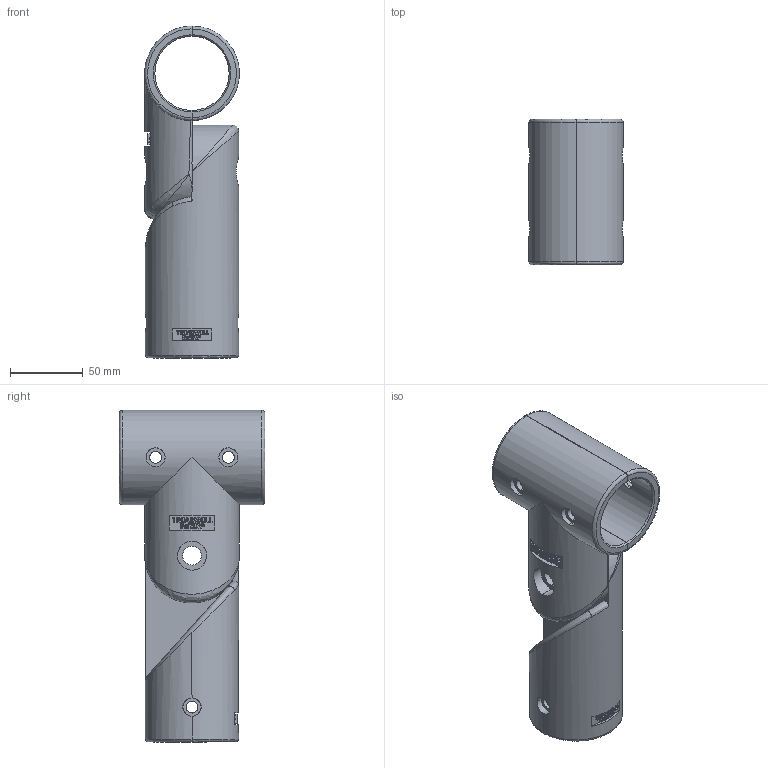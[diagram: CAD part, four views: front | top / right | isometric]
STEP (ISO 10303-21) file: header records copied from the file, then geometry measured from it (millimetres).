
FILE_DESCRIPTION (( 'STEP AP203' ), '1' );
FILE_NAME ('RAILEX STANDARD RXR-ATCJ ASSEMBLY.STEP', '2021-06-17T10:37:16', ( '' ), ( '' ), 'SwSTEP 2.0', 'SolidWorks 2020', '' );
FILE_SCHEMA (( 'CONFIG_CONTROL_DESIGN' ));
Length unit declared in the file: millimetre
Products named in the file (3): RAILEX STANDARD RXR-ATCJ_RXR-ATCJ; RAILEX STANDARD RXR-ATCJ ASSEMBLY; RAILEX STANDARD RXR-ACCJ_RXR-ACCJ
Assembly tree (2 placements, depth 2):
  RAILEX STANDARD RXR-ATCJ ASSEMBLY
    RAILEX STANDARD RXR-ATCJ_RXR-ATCJ
    RAILEX STANDARD RXR-ACCJ_RXR-ACCJ
Bounding box: 65 x 100 x 228 mm (x, y, z)
Volume: 497923.2 mm3; surface area: 99654.6 mm2
Topology: 5 solids, 5 shells, 608 faces, 1622 edges, 1078 vertices
Faces by surface type: plane 376, bspline 174, cylinder 52, cone 6
Entity records: 27401 total; most frequent: CARTESIAN_POINT 13147, ORIENTED_EDGE 3240, DIRECTION 2180, EDGE_CURVE 1620, VECTOR 1138, LINE 1138, VERTEX_POINT 1078, EDGE_LOOP 680
